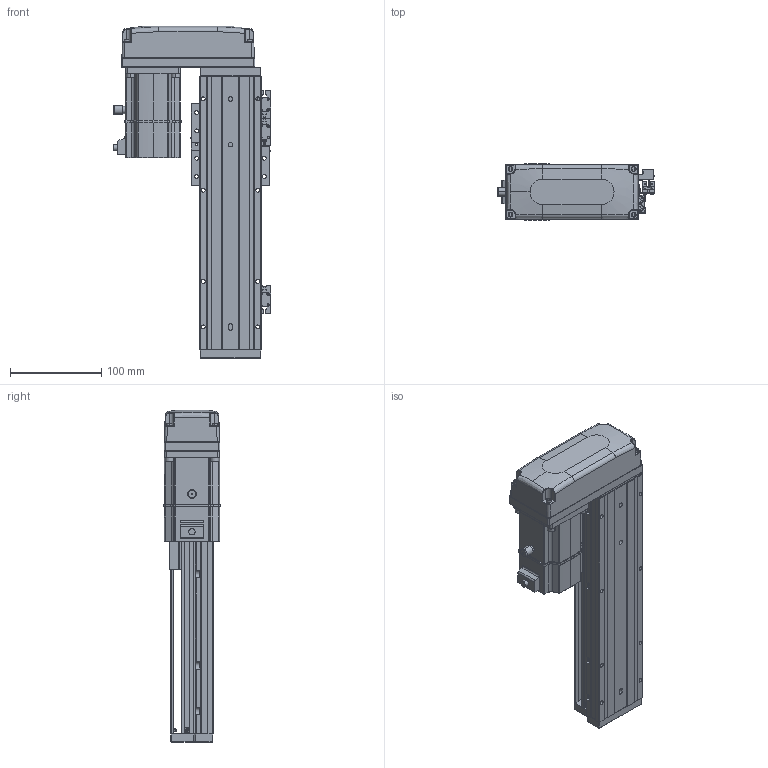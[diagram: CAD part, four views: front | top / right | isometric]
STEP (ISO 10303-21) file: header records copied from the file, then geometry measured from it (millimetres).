
FILE_DESCRIPTION (( 'STEP AP203' ), '1' );
FILE_NAME ('KTHAL60-150-BR-M20-C4L.step', '2022-12-16T02:14:28', ( '微软用户' ), ( '微软中国' ), 'SwSTEP 2.0', 'SolidWorks 2020', '' );
FILE_SCHEMA (( 'CONFIG_CONTROL_DESIGN' ));
Length unit declared in the file: millimetre
Products named in the file (17): KTHA60-004; GBT 70.1-M4×16; KTHAL60-150-BR-M20-C4L; KTHA60-005; GBT77-2000M3-3; GB¨uT 70.2-M3¡Á5_M3¡Á6; GBT 70.1-M3℅6; GBT 70.3-M3℅6; CTHA60-016; EE_SX911P_R; _X2_4E0983F1_X0_200W_1; KTHA60-001_300; CTHA60-017; CTHA60-015-4_CTHA60-015-4; KTHLA60-002; CTHA60-021; GTH80-026
Assembly tree (45 placements, depth 2):
  KTHAL60-150-BR-M20-C4L
    KTHA60-001_300
    KTHLA60-002
    KTHA60-004
    KTHA60-005
    GB¨uT 70.2-M3¡Á5_M3¡Á6  x5
    GBT 70.3-M3℅6  x4
    EE_SX911P_R  x3
    CTHA60-017  x3
    CTHA60-021  x2
    GBT 70.1-M4×16  x8
    GBT77-2000M3-3  x6
    GBT 70.1-M3℅6  x6
    CTHA60-016
    _X2_4E0983F1_X0_200W_1
    CTHA60-015-4_CTHA60-015-4
    GTH80-026
Bounding box: 173.02 x 62.42 x 364 mm (x, y, z)
Volume: 1349796.9 mm3; surface area: 268949.3 mm2
Topology: 48 solids, 48 shells, 2291 faces, 5436 edges, 3337 vertices
Faces by surface type: plane 1223, cylinder 605, cone 264, bspline 103, torus 82, sphere 14
Entity records: 43955 total; most frequent: CARTESIAN_POINT 9930, DIRECTION 6591, ORIENTED_EDGE 6496, EDGE_CURVE 3248, AXIS2_PLACEMENT_3D 2282, LINE 2027, VECTOR 2027, VERTEX_POINT 2021
